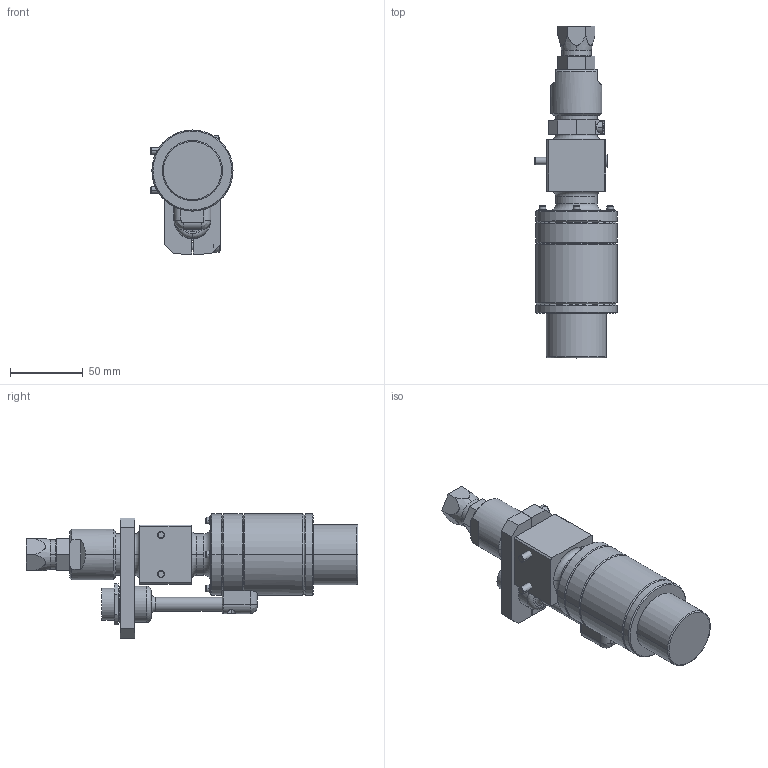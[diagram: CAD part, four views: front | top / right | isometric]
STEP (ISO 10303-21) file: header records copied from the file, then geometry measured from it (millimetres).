
FILE_DESCRIPTION((''),'2;1');
FILE_NAME('243402-EN-L_PRT','2019-12-31T16:38:19',('qusrh3'),(''),'CREO PARAMETRIC BY PTC INC, 2019030','CREO PARAMETRIC BY PTC INC, 2019030','');
FILE_SCHEMA(('CONFIG_CONTROL_DESIGN'));
Length unit declared in the file: inch
Products named in the file (1): 243402-EN-L_PRT
Bounding box: 56.46 x 228.55 x 85.44 mm (x, y, z)
Surface area: 62423.9 mm2 (no closed solid volume)
Topology: 0 solids, 36 shells, 219 faces, 529 edges, 340 vertices
Faces by surface type: plane 84, cylinder 76, cone 39, torus 18, bspline 2
Entity records: 6647 total; most frequent: CARTESIAN_POINT 1482, DIRECTION 1172, ORIENTED_EDGE 934, EDGE_CURVE 529, AXIS2_PLACEMENT_3D 457, VERTEX_POINT 340, VECTOR 258, LINE 258
